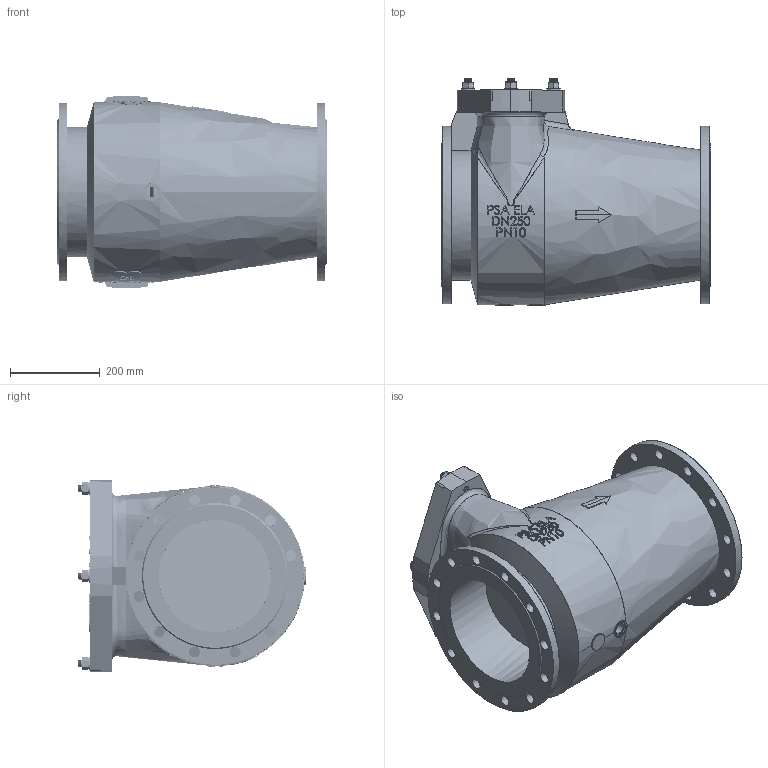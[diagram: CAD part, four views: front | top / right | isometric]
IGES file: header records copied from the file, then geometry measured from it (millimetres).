
Start section: P
Global section: file name: PSA ELA DN250 PN10.igs; native system: By Siemens PLM Incorporated; preprocessor: XPlus GENERIC/IGES 25.1.153; author: Christin-Michelle Fremgen; organization: PSA Wasserarmaturen GmbH; date: 20241016.120124; units: millimetre
Bounding box: 600 x 506 x 429.58 mm (x, y, z)
Surface area: 2332039 mm2 (no closed solid volume)
Topology: 0 solids, 0 shells, 1738 faces, 9954 edges, 9946 vertices
Faces by surface type: bspline 1738
